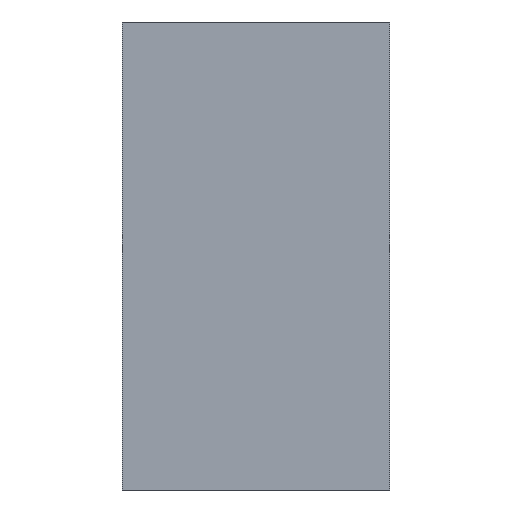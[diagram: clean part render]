
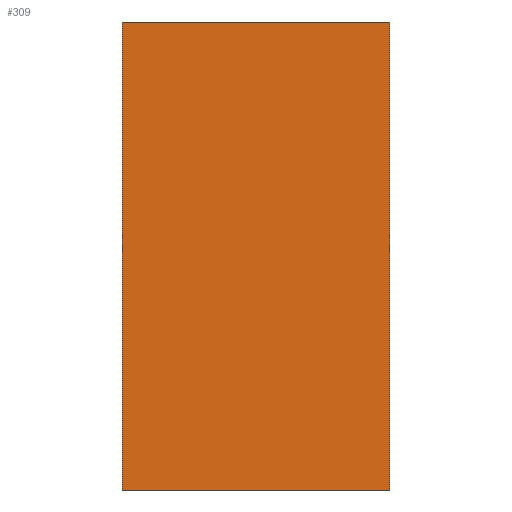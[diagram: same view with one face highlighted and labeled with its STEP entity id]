
A CAD part, left-side view. The second image highlights one B-rep face of the part: STEP entity #309.
In plain terms, the highlighted planar face has unit normal (-1, 0, 0).
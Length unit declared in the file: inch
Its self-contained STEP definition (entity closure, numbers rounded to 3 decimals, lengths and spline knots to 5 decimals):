
#12 = VERTEX_POINT ( 'NONE', #271 ) ;
#15 = VECTOR ( 'NONE', #204, 39.37008 ) ;
#41 = CARTESIAN_POINT ( 'NONE',  ( -1.36134, -0.29937, 1.312 ) ) ;
#58 = ORIENTED_EDGE ( 'NONE', *, *, #543, .T. ) ;
#85 = DIRECTION ( 'NONE',  ( 1., 0., 0. ) ) ;
#92 = CARTESIAN_POINT ( 'NONE',  ( -1.36134, 0.45063, 1.312 ) ) ;
#162 = AXIS2_PLACEMENT_3D ( 'NONE', #92, #85, #515 ) ;
#166 = ORIENTED_EDGE ( 'NONE', *, *, #525, .F. ) ;
#186 = VECTOR ( 'NONE', #222, 39.37008 ) ;
#187 = LINE ( 'NONE', #217, #186 ) ;
#201 = VERTEX_POINT ( 'NONE', #41 ) ;
#204 = DIRECTION ( 'NONE',  ( 0., -1., 0. ) ) ;
#217 = CARTESIAN_POINT ( 'NONE',  ( -1.36134, -0.29937, 1.312 ) ) ;
#222 = DIRECTION ( 'NONE',  ( 0., 0., -1. ) ) ;
#240 = CARTESIAN_POINT ( 'NONE',  ( -1.36134, 0.45063, 0. ) ) ;
#271 = CARTESIAN_POINT ( 'NONE',  ( -1.36134, -0.29937, 0. ) ) ;
#309 = ADVANCED_FACE ( 'NONE', ( #593 ), #454, .F. ) ;
#330 = CARTESIAN_POINT ( 'NONE',  ( -1.36134, 0.45063, 0. ) ) ;
#431 = CARTESIAN_POINT ( 'NONE',  ( -1.36134, 0.45063, 1.312 ) ) ;
#454 = PLANE ( 'NONE',  #162 ) ;
#459 = DIRECTION ( 'NONE',  ( 0., 0., -1. ) ) ;
#463 = LINE ( 'NONE', #558, #497 ) ;
#476 = EDGE_CURVE ( 'NONE', #694, #201, #463, .T. ) ;
#480 = EDGE_LOOP ( 'NONE', ( #58, #166, #596, #541 ) ) ;
#497 = VECTOR ( 'NONE', #644, 39.37008 ) ;
#510 = CARTESIAN_POINT ( 'NONE',  ( -1.36134, 0.45063, 1.312 ) ) ;
#515 = DIRECTION ( 'NONE',  ( 0., 0., -1. ) ) ;
#525 = EDGE_CURVE ( 'NONE', #201, #12, #187, .T. ) ;
#534 = LINE ( 'NONE', #240, #15 ) ;
#541 = ORIENTED_EDGE ( 'NONE', *, *, #676, .T. ) ;
#543 = EDGE_CURVE ( 'NONE', #594, #12, #534, .T. ) ;
#551 = LINE ( 'NONE', #431, #645 ) ;
#558 = CARTESIAN_POINT ( 'NONE',  ( -1.36134, 0.45063, 1.312 ) ) ;
#593 = FACE_OUTER_BOUND ( 'NONE', #480, .T. ) ;
#594 = VERTEX_POINT ( 'NONE', #330 ) ;
#596 = ORIENTED_EDGE ( 'NONE', *, *, #476, .F. ) ;
#644 = DIRECTION ( 'NONE',  ( 0., -1., 0. ) ) ;
#645 = VECTOR ( 'NONE', #459, 39.37008 ) ;
#676 = EDGE_CURVE ( 'NONE', #694, #594, #551, .T. ) ;
#694 = VERTEX_POINT ( 'NONE', #510 ) ;
